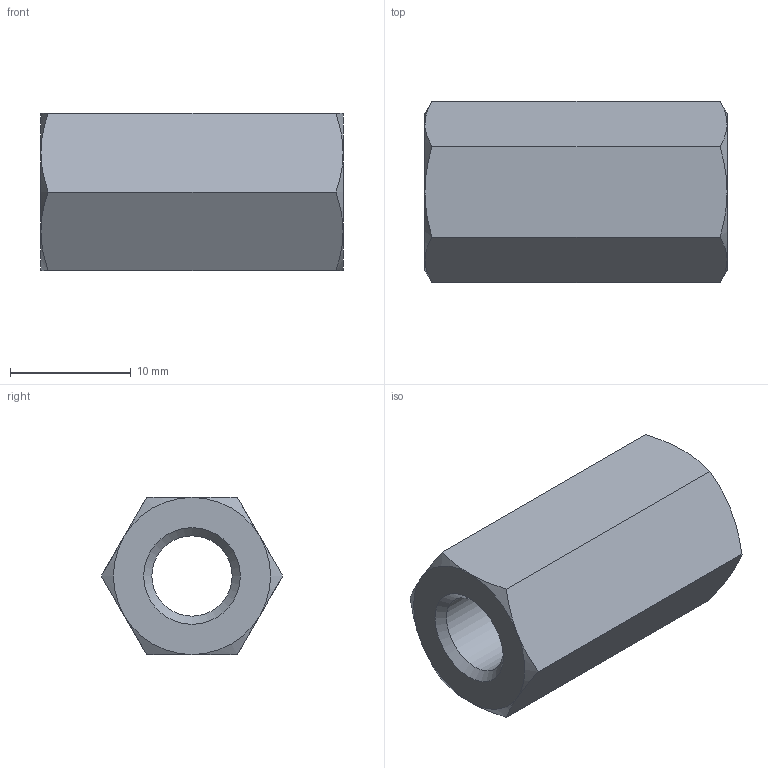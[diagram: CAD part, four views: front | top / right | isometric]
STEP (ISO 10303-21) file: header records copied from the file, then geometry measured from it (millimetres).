
FILE_DESCRIPTION( ( 'STEP AP203' ), '1' );
FILE_NAME( 'C:/Temp/Ganter_Step_05_03_2020/data/3_2/gn6220/gn6220_ni/Stainless Steel-Spacer GN 6220-NI-M8-25-A.stp', '2020-03-13T05:43:05', ( 'License CC BY-ND 4.0' ), ( 'CADENAS' ), ' ', 'PARTsolutions', ' ' );
FILE_SCHEMA( ( 'CONFIG_CONTROL_DESIGN' ) );
Length unit declared in the file: millimetre
Products named in the file (1): _Stainless Steel-Spacer GN 6220-NI-M8-25-A
Bounding box: 25 x 15.01 x 13 mm (x, y, z)
Volume: 2776.5 mm3; surface area: 1842.1 mm2
Topology: 1 solids, 1 shells, 23 faces, 49 edges, 28 vertices
Faces by surface type: cone 14, plane 8, cylinder 1
Full cylindrical faces by diameter (mm): 6.647 x1
Entity records: 728 total; most frequent: CARTESIAN_POINT 234, ORIENTED_EDGE 92, DIRECTION 86, EDGE_CURVE 46, AXIS2_PLACEMENT_3D 40, EDGE_LOOP 28, VERTEX_POINT 28, FACE_OUTER_BOUND 24
